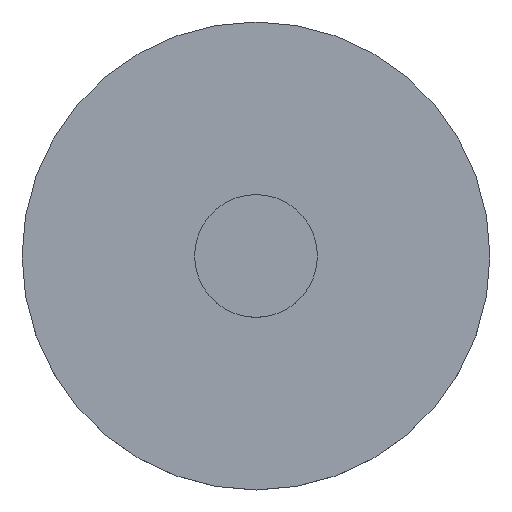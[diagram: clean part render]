
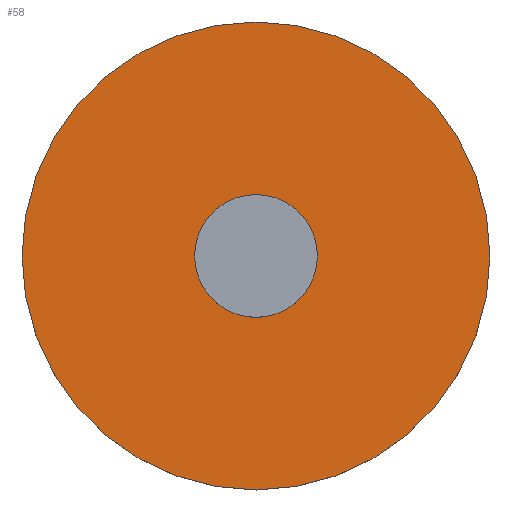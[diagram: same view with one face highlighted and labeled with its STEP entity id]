
A CAD part, top view. The second image highlights one B-rep face of the part: STEP entity #58.
In plain terms, the highlighted planar face has unit normal (0, 0, 1).
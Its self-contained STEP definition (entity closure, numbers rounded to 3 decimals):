
#58=ADVANCED_FACE('',(#72),#73,.T.);
#72=FACE_OUTER_BOUND('',#90,.T.);
#73=PLANE('',#91);
#90=EDGE_LOOP('',(#126,#127));
#91=AXIS2_PLACEMENT_3D('',#128,#129,#130);
#126=ORIENTED_EDGE('',*,*,#158,.T.);
#127=ORIENTED_EDGE('',*,*,#162,.T.);
#128=CARTESIAN_POINT('',(0.0,0.0,7.5));
#129=DIRECTION('',(0.0,0.0,1.0));
#130=DIRECTION('',(1.0,0.0,0.0));
#158=EDGE_CURVE('',#170,#174,#176,.T.);
#162=EDGE_CURVE('',#174,#170,#181,.T.);
#170=VERTEX_POINT('',#193);
#174=VERTEX_POINT('',#198);
#176=CIRCLE('',#201,38.1);
#181=CIRCLE('',#206,38.1);
#193=CARTESIAN_POINT('',(38.1,0.0,7.5));
#198=CARTESIAN_POINT('',(-38.1,0.,7.5));
#201=AXIS2_PLACEMENT_3D('',#224,#225,#226);
#206=AXIS2_PLACEMENT_3D('',#236,#237,#238);
#224=CARTESIAN_POINT('',(0.0,0.0,7.5));
#225=DIRECTION('',(0.0,0.0,1.0));
#226=DIRECTION('',(1.0,0.0,0.0));
#236=CARTESIAN_POINT('',(0.0,0.0,7.5));
#237=DIRECTION('',(0.0,0.0,1.0));
#238=DIRECTION('',(1.0,0.0,0.0));
